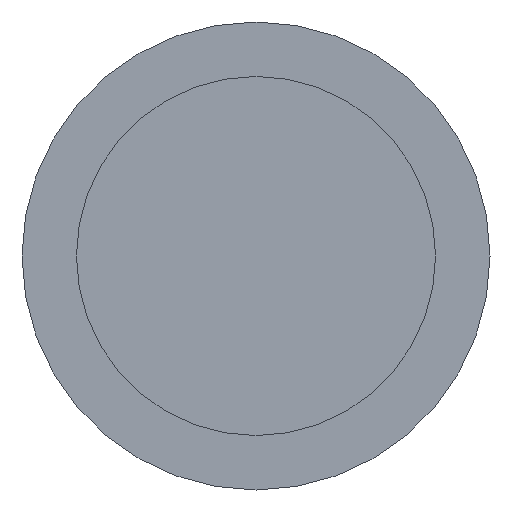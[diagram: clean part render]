
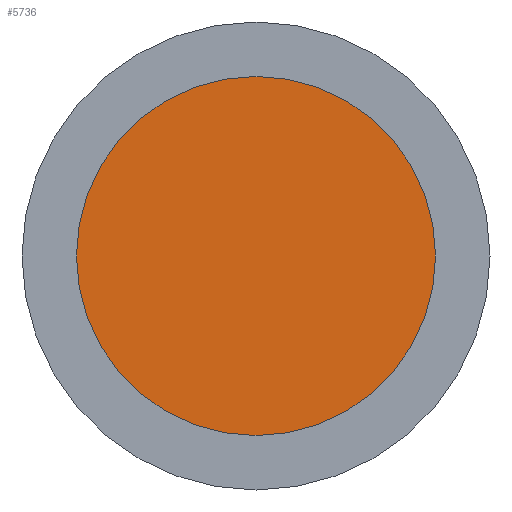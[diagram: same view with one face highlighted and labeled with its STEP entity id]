
A CAD part, front view. The second image highlights one B-rep face of the part: STEP entity #5736.
In plain terms, the highlighted planar face has unit normal (0, -1, 0).
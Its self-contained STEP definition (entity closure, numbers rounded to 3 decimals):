
#5693=CARTESIAN_POINT('Vertex',(0.,1400.,1941.)) ;
#5700=CARTESIAN_POINT('Vertex',(0.,1400.,2119.)) ;
#5703=CARTESIAN_POINT('Axis2P3D Location',(0.,1400.,2030.)) ;
#5715=CARTESIAN_POINT('Axis2P3D Location',(0.,1400.,2030.)) ;
#5727=CARTESIAN_POINT('Axis2P3D Location',(0.,1400.,2119.)) ;
#5704=DIRECTION('Axis2P3D Direction',(0.,1.,-0.)) ;
#5716=DIRECTION('Axis2P3D Direction',(0.,1.,-0.)) ;
#5728=DIRECTION('Axis2P3D Direction',(0.,1.,-0.)) ;
#5729=DIRECTION('Axis2P3D XDirection',(-1.,0.,0.)) ;
#5705=AXIS2_PLACEMENT_3D('Circle Axis2P3D',#5703,#5704,$) ;
#5717=AXIS2_PLACEMENT_3D('Circle Axis2P3D',#5715,#5716,$) ;
#5730=AXIS2_PLACEMENT_3D('Plane Axis2P3D',#5727,#5728,#5729) ;
#5733=ORIENTED_EDGE('',*,*,#5719,.F.) ;
#5734=ORIENTED_EDGE('',*,*,#5707,.F.) ;
#5736=ADVANCED_FACE('\X2\FF8EFF9EFF83FF9EFF68FF70\X0\.1',(#5735),#5731,.F.) ;
#5706=CIRCLE('generated circle',#5705,89.) ;
#5718=CIRCLE('generated circle',#5717,89.) ;
#5707=EDGE_CURVE('',#5701,#5694,#5706,.T.) ;
#5719=EDGE_CURVE('',#5694,#5701,#5718,.T.) ;
#5732=EDGE_LOOP('',(#5733,#5734)) ;
#5735=FACE_OUTER_BOUND('',#5732,.T.) ;
#5731=PLANE('',#5730) ;
#5694=VERTEX_POINT('',#5693) ;
#5701=VERTEX_POINT('',#5700) ;
